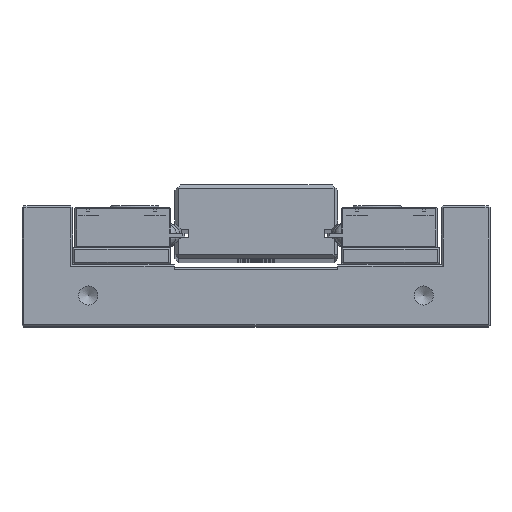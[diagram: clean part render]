
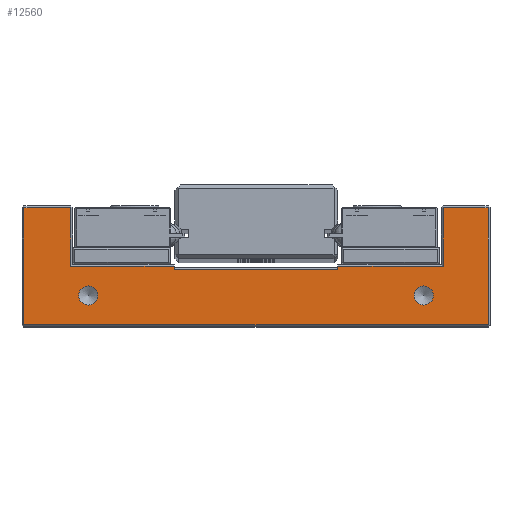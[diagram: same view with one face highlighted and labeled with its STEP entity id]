
A CAD part, top view. The second image highlights one B-rep face of the part: STEP entity #12560.
In plain terms, the highlighted planar face has unit normal (0, 0, 1).
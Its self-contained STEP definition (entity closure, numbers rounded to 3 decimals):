
#413=FACE_BOUND('',#2292,.T.);
#414=FACE_BOUND('',#2293,.T.);
#923=PLANE('',#13639);
#1538=FACE_OUTER_BOUND('',#2291,.T.);
#2291=EDGE_LOOP('',(#10564,#10565,#10566,#10567,#10568,#10569,#10570,#10571,
#10572,#10573,#10574,#10575));
#2292=EDGE_LOOP('',(#10576));
#2293=EDGE_LOOP('',(#10577));
#3283=LINE('',#20716,#4315);
#3355=LINE('',#20930,#4387);
#3384=LINE('',#20984,#4416);
#3386=LINE('',#20987,#4418);
#3388=LINE('',#20991,#4420);
#3389=LINE('',#20993,#4421);
#3391=LINE('',#20997,#4423);
#3392=LINE('',#20999,#4424);
#3395=LINE('',#21004,#4427);
#3397=LINE('',#21008,#4429);
#3399=LINE('',#21012,#4431);
#3400=LINE('',#21014,#4432);
#4315=VECTOR('',#16172,10.);
#4387=VECTOR('',#16396,10.);
#4416=VECTOR('',#16459,10.);
#4418=VECTOR('',#16463,10.);
#4420=VECTOR('',#16469,10.);
#4421=VECTOR('',#16472,10.);
#4423=VECTOR('',#16478,10.);
#4424=VECTOR('',#16481,10.);
#4427=VECTOR('',#16486,10.);
#4429=VECTOR('',#16490,10.);
#4431=VECTOR('',#16496,10.);
#4432=VECTOR('',#16499,10.);
#4883=CIRCLE('',#13640,2.459);
#4884=CIRCLE('',#13641,2.459);
#5824=VERTEX_POINT('',#20709);
#5827=VERTEX_POINT('',#20714);
#5885=VERTEX_POINT('',#20895);
#5890=VERTEX_POINT('',#20913);
#5892=VERTEX_POINT('',#20927);
#5893=VERTEX_POINT('',#20929);
#5894=VERTEX_POINT('',#20933);
#5896=VERTEX_POINT('',#20945);
#5897=VERTEX_POINT('',#20950);
#5899=VERTEX_POINT('',#20968);
#5902=VERTEX_POINT('',#21003);
#5903=VERTEX_POINT('',#21007);
#5904=VERTEX_POINT('',#21015);
#5905=VERTEX_POINT('',#21017);
#7379=EDGE_CURVE('',#5827,#5824,#3283,.T.);
#7485=EDGE_CURVE('',#5892,#5893,#3355,.T.);
#7514=EDGE_CURVE('',#5896,#5899,#3384,.T.);
#7516=EDGE_CURVE('',#5899,#5897,#3386,.T.);
#7518=EDGE_CURVE('',#5897,#5894,#3388,.T.);
#7519=EDGE_CURVE('',#5893,#5896,#3389,.T.);
#7521=EDGE_CURVE('',#5894,#5890,#3391,.T.);
#7522=EDGE_CURVE('',#5890,#5885,#3392,.T.);
#7525=EDGE_CURVE('',#5885,#5902,#3395,.T.);
#7527=EDGE_CURVE('',#5902,#5903,#3397,.T.);
#7529=EDGE_CURVE('',#5827,#5903,#3399,.T.);
#7530=EDGE_CURVE('',#5892,#5824,#3400,.T.);
#7531=EDGE_CURVE('',#5904,#5904,#4883,.T.);
#7532=EDGE_CURVE('',#5905,#5905,#4884,.T.);
#10564=ORIENTED_EDGE('',*,*,#7529,.T.);
#10565=ORIENTED_EDGE('',*,*,#7527,.F.);
#10566=ORIENTED_EDGE('',*,*,#7525,.F.);
#10567=ORIENTED_EDGE('',*,*,#7522,.F.);
#10568=ORIENTED_EDGE('',*,*,#7521,.F.);
#10569=ORIENTED_EDGE('',*,*,#7518,.F.);
#10570=ORIENTED_EDGE('',*,*,#7516,.F.);
#10571=ORIENTED_EDGE('',*,*,#7514,.F.);
#10572=ORIENTED_EDGE('',*,*,#7519,.F.);
#10573=ORIENTED_EDGE('',*,*,#7485,.F.);
#10574=ORIENTED_EDGE('',*,*,#7530,.T.);
#10575=ORIENTED_EDGE('',*,*,#7379,.F.);
#10576=ORIENTED_EDGE('',*,*,#7531,.T.);
#10577=ORIENTED_EDGE('',*,*,#7532,.T.);
#12560=ADVANCED_FACE('',(#1538,#413,#414),#923,.T.);
#13639=AXIS2_PLACEMENT_3D('',#21013,#16497,#16498);
#13640=AXIS2_PLACEMENT_3D('',#21016,#16500,#16501);
#13641=AXIS2_PLACEMENT_3D('',#21018,#16502,#16503);
#16172=DIRECTION('',(1.,0.,0.));
#16396=DIRECTION('',(1.,0.,0.));
#16459=DIRECTION('',(1.,0.,0.));
#16463=DIRECTION('',(0.,-1.,0.));
#16469=DIRECTION('',(-1.,0.,0.));
#16472=DIRECTION('',(0.,1.,0.));
#16478=DIRECTION('',(0.,1.,0.));
#16481=DIRECTION('',(1.,0.,0.));
#16486=DIRECTION('',(0.,-1.,0.));
#16490=DIRECTION('',(1.,0.,0.));
#16496=DIRECTION('',(0.,1.,0.));
#16497=DIRECTION('center_axis',(0.,0.,1.));
#16498=DIRECTION('ref_axis',(1.,0.,0.));
#16499=DIRECTION('',(0.,-1.,0.));
#16500=DIRECTION('center_axis',(0.,0.,-1.));
#16501=DIRECTION('ref_axis',(-1.,0.,0.));
#16502=DIRECTION('center_axis',(0.,0.,-1.));
#16503=DIRECTION('ref_axis',(-1.,0.,0.));
#20709=CARTESIAN_POINT('',(23.66,11.195,52.5));
#20714=CARTESIAN_POINT('',(-18.34,11.195,52.5));
#20716=CARTESIAN_POINT('',(13.16,11.195,52.5));
#20895=CARTESIAN_POINT('',(-44.84,26.995,52.5));
#20913=CARTESIAN_POINT('',(-56.84,26.995,52.5));
#20927=CARTESIAN_POINT('',(23.66,11.995,52.5));
#20929=CARTESIAN_POINT('',(50.66,11.995,52.5));
#20930=CARTESIAN_POINT('',(26.41,11.995,52.5));
#20933=CARTESIAN_POINT('',(-56.84,-3.005,52.5));
#20945=CARTESIAN_POINT('',(50.66,26.995,52.5));
#20950=CARTESIAN_POINT('',(62.16,-3.005,52.5));
#20968=CARTESIAN_POINT('',(62.16,26.995,52.5));
#20984=CARTESIAN_POINT('',(32.66,26.995,52.5));
#20987=CARTESIAN_POINT('',(62.16,4.245,52.5));
#20991=CARTESIAN_POINT('',(-27.34,-3.005,52.5));
#20993=CARTESIAN_POINT('',(50.66,19.745,52.5));
#20997=CARTESIAN_POINT('',(-56.84,19.745,52.5));
#20999=CARTESIAN_POINT('',(-20.84,26.995,52.5));
#21003=CARTESIAN_POINT('',(-44.84,11.995,52.5));
#21004=CARTESIAN_POINT('',(-44.84,12.245,52.5));
#21007=CARTESIAN_POINT('',(-18.34,11.995,52.5));
#21008=CARTESIAN_POINT('',(-7.84,11.995,52.5));
#21012=CARTESIAN_POINT('',(-18.34,11.695,52.5));
#21013=CARTESIAN_POINT('Origin',(2.66,11.995,52.5));
#21014=CARTESIAN_POINT('',(23.66,12.495,52.5));
#21015=CARTESIAN_POINT('',(-37.881,4.495,52.5));
#21016=CARTESIAN_POINT('Origin',(-40.34,4.495,52.5));
#21017=CARTESIAN_POINT('',(48.119,4.495,52.5));
#21018=CARTESIAN_POINT('Origin',(45.66,4.495,52.5));
